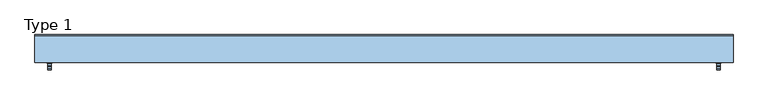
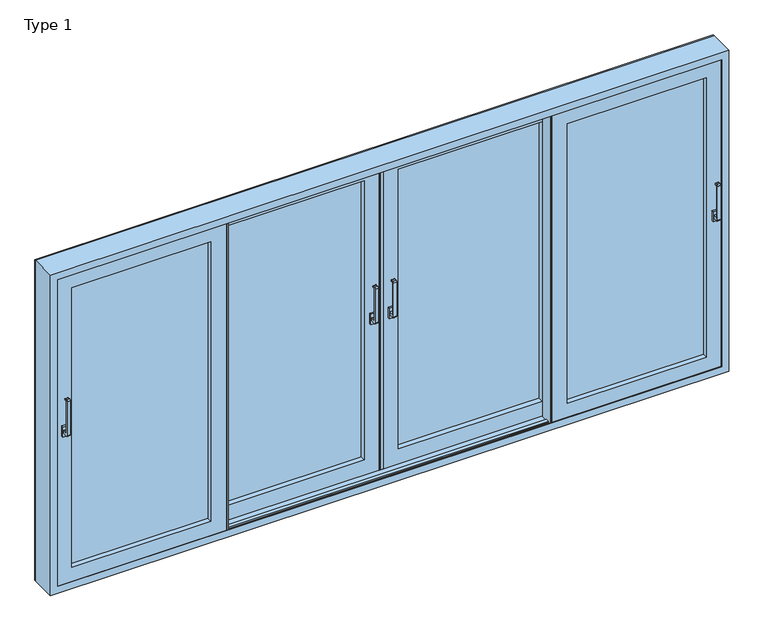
"""IFC4 building model written with IfcOpenShell, lengths in millimetres: window geometry, ETEM_ES70_Quadruple_Lift_Sliding : Type 1."""

from ifc_helpers import new_model, si_unit, point, frame, frame_2d, origin, place, context, project, spatial, polyline, circle_curve, trimmed, segment, composite_curve, outline, extrude, faceted_brep, source, transform, mapped, element, save


def type_1_e41e581d(model_context):
    return source(origin(), model_context, "Body", "SolidModel", [
        extrude(outline(composite_curve([segment(polyline([(-76.4992454, 1090.0), (-108.0729301, 1090.0)]), True, "CONTINUOUS"), segment(trimmed(circle_curve(frame_2d((-108.0729301, 1098.4263152)), 8.4263152), [point((-108.0729301, 1090.0))], [point((-116.4992454, 1098.4263152))], False, "CARTESIAN"), True, "CONTINUOUS"), segment(polyline([(-116.4992454, 1098.4263152), (-116.4992454, 1331.5736848)]), True, "CONTINUOUS"), segment(trimmed(circle_curve(frame_2d((-108.0729301, 1331.5736848)), 8.4263152), [point((-116.4992454, 1331.5736848))], [point((-108.0729301, 1340.0))], False, "CARTESIAN"), True, "CONTINUOUS"), segment(polyline([(-108.0729301, 1340.0), (-96.4992454, 1340.0)]), True, "CONTINUOUS"), segment(trimmed(circle_curve(frame_2d((-96.4992454, 1335.0)), 5.0), [point((-96.4992454, 1340.0))], [point((-96.4992454, 1330.0))], False, "CARTESIAN"), True, "CONTINUOUS"), segment(polyline([(-96.4992454, 1330.0), (-102.9637115, 1330.0)]), True, "CONTINUOUS"), segment(trimmed(circle_curve(frame_2d((-102.9637115, 1326.4644661)), 3.5355339), [point((-102.9637115, 1330.0))], [point((-106.4992454, 1326.4644661))], True, "CARTESIAN"), True, "CONTINUOUS"), segment(polyline([(-106.4992454, 1326.4644661), (-106.4992454, 1113.5355339)]), True, "CONTINUOUS"), segment(trimmed(circle_curve(frame_2d((-102.9637115, 1113.5355339)), 3.5355339), [point((-106.4992454, 1113.5355339))], [point((-102.9637115, 1110.0))], True, "CARTESIAN"), True, "CONTINUOUS"), segment(polyline([(-102.9637115, 1110.0), (-76.4992454, 1110.0), (-76.4992454, 1090.0)]), True, "CONTINUOUS")], self_intersect=False)), frame((2098.5, 0.0, 0.0), z_axis=(1.0, 0.0, 0.0), x_axis=(0.0, 1.0, 0.0)), (0.0, 0.0, 1.0), 20.0),
        extrude(outline(polyline([(2093.5, -76.4992454), (2093.5, -63.4992454), (2123.5, -63.4992454), (2123.5, -76.4992454), (2093.5, -76.4992454)])), frame((0.0, 0.0, 1065.0), z_axis=(0.0, 0.0, 1.0), x_axis=(1.0, 0.0, 0.0)), (0.0, 0.0, 1.0), 70.0),
        extrude(outline(composite_curve([segment(polyline([(-76.4992454, 1090.0), (-108.0729301, 1090.0)]), True, "CONTINUOUS"), segment(trimmed(circle_curve(frame_2d((-108.0729301, 1098.4263152)), 8.4263152), [point((-108.0729301, 1090.0))], [point((-116.4992454, 1098.4263152))], False, "CARTESIAN"), True, "CONTINUOUS"), segment(polyline([(-116.4992454, 1098.4263152), (-116.4992454, 1331.5736848)]), True, "CONTINUOUS"), segment(trimmed(circle_curve(frame_2d((-108.0729301, 1331.5736848)), 8.4263152), [point((-116.4992454, 1331.5736848))], [point((-108.0729301, 1340.0))], False, "CARTESIAN"), True, "CONTINUOUS"), segment(polyline([(-108.0729301, 1340.0), (-96.4992454, 1340.0)]), True, "CONTINUOUS"), segment(trimmed(circle_curve(frame_2d((-96.4992454, 1335.0)), 5.0), [point((-96.4992454, 1340.0))], [point((-96.4992454, 1330.0))], False, "CARTESIAN"), True, "CONTINUOUS"), segment(polyline([(-96.4992454, 1330.0), (-102.9637115, 1330.0)]), True, "CONTINUOUS"), segment(trimmed(circle_curve(frame_2d((-102.9637115, 1326.4644661)), 3.5355339), [point((-102.9637115, 1330.0))], [point((-106.4992454, 1326.4644661))], True, "CARTESIAN"), True, "CONTINUOUS"), segment(polyline([(-106.4992454, 1326.4644661), (-106.4992454, 1113.5355339)]), True, "CONTINUOUS"), segment(trimmed(circle_curve(frame_2d((-102.9637115, 1113.5355339)), 3.5355339), [point((-106.4992454, 1113.5355339))], [point((-102.9637115, 1110.0))], True, "CARTESIAN"), True, "CONTINUOUS"), segment(polyline([(-102.9637115, 1110.0), (-76.4992454, 1110.0), (-76.4992454, 1090.0)]), True, "CONTINUOUS")], self_intersect=False)), frame((-2118.5, 0.0, 0.0), z_axis=(1.0, 0.0, 0.0), x_axis=(0.0, 1.0, 0.0)), (0.0, 0.0, 1.0), 20.0),
        extrude(outline(polyline([(-2123.5, -76.4992454), (-2123.5, -63.4992454), (-2093.5, -63.4992454), (-2093.5, -76.4992454), (-2123.5, -76.4992454)])), frame((0.0, 0.0, 1065.0), z_axis=(0.0, 0.0, 1.0), x_axis=(1.0, 0.0, 0.0)), (0.0, 0.0, 1.0), 70.0),
        extrude(outline(composite_curve([segment(polyline([(13.5, 1090.0), (-18.0736848, 1090.0)]), True, "CONTINUOUS"), segment(trimmed(circle_curve(frame_2d((-18.0736848, 1098.4263152)), 8.4263152), [point((-18.0736848, 1090.0))], [point((-26.5, 1098.4263152))], False, "CARTESIAN"), True, "CONTINUOUS"), segment(polyline([(-26.5, 1098.4263152), (-26.5, 1331.5736848)]), True, "CONTINUOUS"), segment(trimmed(circle_curve(frame_2d((-18.0736848, 1331.5736848)), 8.4263152), [point((-26.5, 1331.5736848))], [point((-18.0736848, 1340.0))], False, "CARTESIAN"), True, "CONTINUOUS"), segment(polyline([(-18.0736848, 1340.0), (-6.5, 1340.0)]), True, "CONTINUOUS"), segment(trimmed(circle_curve(frame_2d((-6.5, 1335.0)), 5.0), [point((-6.5, 1340.0))], [point((-6.5, 1330.0))], False, "CARTESIAN"), True, "CONTINUOUS"), segment(polyline([(-6.5, 1330.0), (-12.9644661, 1330.0)]), True, "CONTINUOUS"), segment(trimmed(circle_curve(frame_2d((-12.9644661, 1326.4644661)), 3.5355339), [point((-12.9644661, 1330.0))], [point((-16.5, 1326.4644661))], True, "CARTESIAN"), True, "CONTINUOUS"), segment(polyline([(-16.5, 1326.4644661), (-16.5, 1113.5355339)]), True, "CONTINUOUS"), segment(trimmed(circle_curve(frame_2d((-12.9644661, 1113.5355339)), 3.5355339), [point((-16.5, 1113.5355339))], [point((-12.9644661, 1110.0))], True, "CARTESIAN"), True, "CONTINUOUS"), segment(polyline([(-12.9644661, 1110.0), (13.5, 1110.0), (13.5, 1090.0)]), True, "CONTINUOUS")], self_intersect=False)), frame((-69.4936823, 0.0, 0.0), z_axis=(1.0, 0.0, 0.0), x_axis=(0.0, 1.0, 0.0)), (0.0, 0.0, 1.0), 20.0),
        extrude(outline(polyline([(-74.4936823, 13.5), (-74.4936823, 26.5), (-44.4936823, 26.5), (-44.4936823, 13.5), (-74.4936823, 13.5)])), frame((0.0, 0.0, 1065.0), z_axis=(0.0, 0.0, 1.0), x_axis=(1.0, 0.0, 0.0)), (0.0, 0.0, 1.0), 70.0),
        extrude(outline(composite_curve([segment(polyline([(13.5, 1090.0), (-18.0736848, 1090.0)]), True, "CONTINUOUS"), segment(trimmed(circle_curve(frame_2d((-18.0736848, 1098.4263152)), 8.4263152), [point((-18.0736848, 1090.0))], [point((-26.5, 1098.4263152))], False, "CARTESIAN"), True, "CONTINUOUS"), segment(polyline([(-26.5, 1098.4263152), (-26.5, 1331.5736848)]), True, "CONTINUOUS"), segment(trimmed(circle_curve(frame_2d((-18.0736848, 1331.5736848)), 8.4263152), [point((-26.5, 1331.5736848))], [point((-18.0736848, 1340.0))], False, "CARTESIAN"), True, "CONTINUOUS"), segment(polyline([(-18.0736848, 1340.0), (-6.5, 1340.0)]), True, "CONTINUOUS"), segment(trimmed(circle_curve(frame_2d((-6.5, 1335.0)), 5.0), [point((-6.5, 1340.0))], [point((-6.5, 1330.0))], False, "CARTESIAN"), True, "CONTINUOUS"), segment(polyline([(-6.5, 1330.0), (-12.9644661, 1330.0)]), True, "CONTINUOUS"), segment(trimmed(circle_curve(frame_2d((-12.9644661, 1326.4644661)), 3.5355339), [point((-12.9644661, 1330.0))], [point((-16.5, 1326.4644661))], True, "CARTESIAN"), True, "CONTINUOUS"), segment(polyline([(-16.5, 1326.4644661), (-16.5, 1113.5355339)]), True, "CONTINUOUS"), segment(trimmed(circle_curve(frame_2d((-12.9644661, 1113.5355339)), 3.5355339), [point((-16.5, 1113.5355339))], [point((-12.9644661, 1110.0))], True, "CARTESIAN"), True, "CONTINUOUS"), segment(polyline([(-12.9644661, 1110.0), (13.5, 1110.0), (13.5, 1090.0)]), True, "CONTINUOUS")], self_intersect=False)), frame((49.4931787, 0.0, 0.0), z_axis=(1.0, 0.0, 0.0), x_axis=(0.0, 1.0, 0.0)), (0.0, 0.0, 1.0), 20.0),
        extrude(outline(polyline([(74.4931787, 13.5), (44.4931787, 13.5), (44.4931787, 26.5), (74.4931787, 26.5), (74.4931787, 13.5)])), frame((0.0, 0.0, 1065.0), z_axis=(0.0, 0.0, 1.0), x_axis=(1.0, 0.0, 0.0)), (0.0, 0.0, 1.0), 70.0),
        faceted_brep([(2200.0, -70.1, 2200.0), (2200.0, -70.1, 0.0), (2200.0, 97.9, 0.0), (2200.0, 97.9, 2200.0), (-2200.0, -70.1, 2200.0), (-2200.0, -70.1, 0.0), (2152.0, -70.1, 48.0), (-2152.0, -70.1, 48.0), (-2152.0, -70.1, 2152.0), (2152.0, -70.1, 2152.0), (-2200.0, 97.9, 0.0), (-2200.0, 97.9, 2200.0), (2183.7, 97.9, 2183.7), (-2183.7, 97.9, 2183.7), (-2183.7, 97.9, 16.3), (2183.7, 97.9, 16.3), (2183.7, 66.0, 2183.7), (2183.7, 66.0, 16.3), (-2183.7, 66.0, 16.3), (-2183.7, 66.0, 2183.7), (2160.0, 66.0, 2160.0), (-2160.0, 66.0, 2160.0), (-2160.0, 66.0, 40.0), (2160.0, 66.0, 40.0), (2160.0, 80.0, 2160.0), (2160.0, 80.0, 40.0), (-2160.0, 80.0, 40.0), (-2160.0, 80.0, 2160.0), (2152.0, 80.0, 2152.0), (-2152.0, 80.0, 2152.0), (-2152.0, 80.0, 48.0), (2152.0, 80.0, 48.0), (2152.0, 57.0, 2152.0), (2152.0, 57.0, 48.0), (-2152.0, 57.0, 48.0), (2183.7, 57.0, 2183.7), (-2183.7, 57.0, 2183.7), (-2183.7, 57.0, 16.3), (2183.7, 57.0, 16.3), (-2152.0, 57.0, 2152.0), (2183.7, -24.0, 2183.7), (2183.7, -24.0, 16.3), (-2183.7, -24.0, 16.3), (-2183.7, -24.0, 2183.7), (2152.0, -24.0, 2152.0), (-2152.0, -24.0, 2152.0), (-2152.0, -24.0, 48.0), (2152.0, -24.0, 48.0), (2152.0, -47.0, 2152.0), (2152.0, -47.0, 48.0), (-2152.0, -47.0, 48.0), (2160.0, -47.0, 2160.0), (-2160.0, -47.0, 2160.0), (-2160.0, -47.0, 40.0), (2160.0, -47.0, 40.0), (-2152.0, -47.0, 2152.0), (2160.0, -33.0, 2160.0), (2160.0, -33.0, 40.0), (-2160.0, -33.0, 40.0), (2183.7, -33.0, 2183.7), (-2183.7, -33.0, 2183.7), (-2183.7, -33.0, 16.3), (2183.7, -33.0, 16.3), (-2160.0, -33.0, 2160.0), (2183.7, -66.3, 2183.7), (2183.7, -66.3, 16.3), (-2183.7, -66.3, 16.3), (-2183.7, -66.3, 2183.7), (2152.0, -66.3, 2152.0), (-2152.0, -66.3, 2152.0), (-2152.0, -66.3, 48.0), (2152.0, -66.3, 48.0)], [[[0, 1, 2, 3]], [[0, 4, 5, 1], [6, 7, 8, 9]], [[2, 1, 5, 10]], [[2, 10, 11, 3], [12, 13, 14, 15]], [[16, 12, 15, 17]], [[17, 15, 14, 18]], [[17, 18, 19, 16], [20, 21, 22, 23]], [[24, 20, 23, 25]], [[25, 23, 22, 26]], [[25, 26, 27, 24], [28, 29, 30, 31]], [[32, 28, 31, 33]], [[33, 31, 30, 34]], [[35, 36, 37, 38], [33, 34, 39, 32]], [[40, 35, 38, 41]], [[41, 38, 37, 42]], [[41, 42, 43, 40], [44, 45, 46, 47]], [[48, 44, 47, 49]], [[49, 47, 46, 50]], [[51, 52, 53, 54], [49, 50, 55, 48]], [[56, 51, 54, 57]], [[57, 54, 53, 58]], [[59, 60, 61, 62], [57, 58, 63, 56]], [[64, 59, 62, 65]], [[65, 62, 61, 66]], [[65, 66, 67, 64], [68, 69, 70, 71]], [[9, 68, 71, 6]], [[6, 71, 70, 7]], [[10, 5, 4, 11]], [[18, 14, 13, 19]], [[26, 22, 21, 27]], [[34, 30, 29, 39]], [[42, 37, 36, 43]], [[50, 46, 45, 55]], [[58, 53, 52, 63]], [[66, 61, 60, 67]], [[7, 70, 69, 8]], [[11, 4, 0, 3]], [[19, 13, 12, 16]], [[27, 21, 20, 24]], [[39, 29, 28, 32]], [[43, 36, 35, 40]], [[55, 45, 44, 48]], [[63, 52, 51, 56]], [[67, 60, 59, 64]], [[8, 69, 68, 9]]]),
        faceted_brep([(1146.5, 38.9, 2161.0), (1146.5, 26.5, 2161.0), (1146.5, 26.5, 39.0), (1146.5, 38.9, 39.0), (7.0252518, 26.5, 2161.0), (7.0252518, 26.5, 39.0), (1043.5, 26.5, 142.0), (110.0252518, 26.5, 142.0), (110.0252518, 26.5, 2058.0), (1043.5, 26.5, 2058.0), (7.0252518, 38.9, 39.0), (7.0252518, 38.9, 2161.0), (1115.4, 38.9, 2129.9), (38.1252518, 38.9, 2129.9), (38.1252518, 38.9, 70.1), (1115.4, 38.9, 70.1), (1115.4, 84.1, 2129.9), (1115.4, 84.1, 70.1), (38.1252518, 84.1, 70.1), (1146.5, 84.1, 2161.0), (7.0252518, 84.1, 2161.0), (7.0252518, 84.1, 39.0), (1146.5, 84.1, 39.0), (38.1252518, 84.1, 2129.9), (1146.5, 96.5, 2161.0), (1146.5, 96.5, 39.0), (7.0252518, 96.5, 39.0), (7.0252518, 96.5, 2161.0), (1043.5, 96.5, 2058.0), (110.0252518, 96.5, 2058.0), (110.0252518, 96.5, 142.0), (1043.5, 96.5, 142.0)], [[[0, 1, 2, 3]], [[1, 4, 5, 2], [6, 7, 8, 9]], [[3, 2, 5, 10]], [[3, 10, 11, 0], [12, 13, 14, 15]], [[16, 12, 15, 17]], [[17, 15, 14, 18]], [[19, 20, 21, 22], [17, 18, 23, 16]], [[24, 19, 22, 25]], [[25, 22, 21, 26]], [[25, 26, 27, 24], [28, 29, 30, 31]], [[9, 28, 31, 6]], [[6, 31, 30, 7]], [[10, 5, 4, 11]], [[18, 14, 13, 23]], [[26, 21, 20, 27]], [[7, 30, 29, 8]], [[11, 4, 1, 0]], [[23, 13, 12, 16]], [[27, 20, 19, 24]], [[8, 29, 28, 9]]]),
        extrude(outline(polyline([(1156.5, 14.7), (1146.5, 14.7), (1146.5, 96.5), (1156.5, 96.5), (1156.5, 14.7)])), frame((0.0, 0.0, 39.0), z_axis=(0.0, 0.0, 1.0), x_axis=(1.0, 0.0, 0.0)), (0.0, 0.0, 1.0), 2122.0),
        extrude(outline(polyline([(1043.5, 18.3007546), (1053.5, 18.3007546), (1053.5, -63.4992454), (1043.5, -63.4992454), (1043.5, 18.3007546)])), frame((0.0, 0.0, 39.0), z_axis=(0.0, 0.0, 1.0), x_axis=(1.0, 0.0, 0.0)), (0.0, 0.0, 1.0), 2122.0),
        extrude(outline(polyline([(109.9252518, 88.5022684), (1043.55, 88.5022684), (1043.55, 82.5022684), (109.9252518, 82.5022684), (109.9252518, 88.5022684)])), frame((0.0, 0.0, 142.0), z_axis=(0.0, 0.0, 1.0), x_axis=(1.0, 0.0, 0.0)), (0.0, 0.0, 1.0), 1916.0),
        extrude(outline(polyline([(1156.5, -1.4992409), (2058.0, -1.4992409), (2058.0, -7.4992409), (1156.5, -7.4992409), (1156.5, -1.4992409)])), frame((0.0, 0.0, 141.9749999), z_axis=(0.0, 0.0, 1.0), x_axis=(1.0, 0.0, 0.0)), (0.0, 0.0, 1.0), 1916.0500002),
        extrude(outline(polyline([(109.9252518, 66.5022684), (1043.55, 66.5022684), (1043.55, 60.5022684), (109.9252518, 60.5022684), (109.9252518, 66.5022684)])), frame((0.0, 0.0, 142.0), z_axis=(0.0, 0.0, 1.0), x_axis=(1.0, 0.0, 0.0)), (0.0, 0.0, 1.0), 1916.0),
        extrude(outline(polyline([(1156.5, -23.4992409), (2058.0, -23.4992409), (2058.0, -29.4992409), (1156.5, -29.4992409), (1156.5, -23.4992409)])), frame((0.0, 0.0, 141.9749999), z_axis=(0.0, 0.0, 1.0), x_axis=(1.0, 0.0, 0.0)), (0.0, 0.0, 1.0), 1916.0500002),
        faceted_brep([(-7.0252518, 38.9, 2161.0), (-7.0252518, 26.5, 2161.0), (-7.0252518, 26.5, 39.0), (-7.0252518, 38.9, 39.0), (-1146.5, 26.5, 2161.0), (-1146.5, 26.5, 39.0), (-110.0252518, 26.5, 142.0), (-1043.5, 26.5, 142.0), (-1043.5, 26.5, 2058.0), (-110.0252518, 26.5, 2058.0), (-1146.5, 38.9, 39.0), (-1146.5, 38.9, 2161.0), (-38.1252518, 38.9, 2129.9), (-1115.4, 38.9, 2129.9), (-1115.4, 38.9, 70.1), (-38.1252518, 38.9, 70.1), (-38.1252518, 84.1, 2129.9), (-38.1252518, 84.1, 70.1), (-1115.4, 84.1, 70.1), (-7.0252518, 84.1, 2161.0), (-1146.5, 84.1, 2161.0), (-1146.5, 84.1, 39.0), (-7.0252518, 84.1, 39.0), (-1115.4, 84.1, 2129.9), (-7.0252518, 96.5, 2161.0), (-7.0252518, 96.5, 39.0), (-1146.5, 96.5, 39.0), (-1146.5, 96.5, 2161.0), (-110.0252518, 96.5, 2058.0), (-1043.5, 96.5, 2058.0), (-1043.5, 96.5, 142.0), (-110.0252518, 96.5, 142.0)], [[[0, 1, 2, 3]], [[1, 4, 5, 2], [6, 7, 8, 9]], [[3, 2, 5, 10]], [[3, 10, 11, 0], [12, 13, 14, 15]], [[16, 12, 15, 17]], [[17, 15, 14, 18]], [[19, 20, 21, 22], [17, 18, 23, 16]], [[24, 19, 22, 25]], [[25, 22, 21, 26]], [[25, 26, 27, 24], [28, 29, 30, 31]], [[9, 28, 31, 6]], [[6, 31, 30, 7]], [[10, 5, 4, 11]], [[18, 14, 13, 23]], [[26, 21, 20, 27]], [[7, 30, 29, 8]], [[11, 4, 1, 0]], [[23, 13, 12, 16]], [[27, 20, 19, 24]], [[8, 29, 28, 9]]]),
        extrude(outline(polyline([(-1043.55, 88.5022684), (-109.9252518, 88.5022684), (-109.9252518, 82.5022684), (-1043.55, 82.5022684), (-1043.55, 88.5022684)])), frame((0.0, 0.0, 142.0), z_axis=(0.0, 0.0, 1.0), x_axis=(1.0, 0.0, 0.0)), (0.0, 0.0, 1.0), 1916.0),
        extrude(outline(polyline([(-1043.55, 66.5022684), (-109.9252518, 66.5022684), (-109.9252518, 60.5022684), (-1043.55, 60.5022684), (-1043.55, 66.5022684)])), frame((0.0, 0.0, 142.0), z_axis=(0.0, 0.0, 1.0), x_axis=(1.0, 0.0, 0.0)), (0.0, 0.0, 1.0), 1916.0),
        faceted_brep([(-1053.5, -51.0992454, 2161.0), (-1053.5, -63.4992454, 2161.0), (-1053.5, -63.4992454, 39.0), (-1053.5, -51.0992454, 39.0), (-2161.0, -63.4992454, 39.0), (-2161.0, -51.0992454, 39.0), (-2161.0, -63.4992454, 2161.0), (-2058.0250001, -63.4992454, 141.9749999), (-2058.0250001, -63.4992454, 2058.0250001), (-1156.4749999, -63.4992454, 2058.0250001), (-1156.4749999, -63.4992454, 141.9749999), (-2161.0, -51.0992454, 2161.0), (-1084.5749999, -51.0992454, 70.0749999), (-1084.5749999, -51.0992454, 2129.9250001), (-2129.9250001, -51.0992454, 2129.9250001), (-2129.9250001, -51.0992454, 70.0749999), (-1084.5749999, -5.8992454, 2129.9250001), (-1084.5749999, -5.8992454, 70.0749999), (-2129.9250001, -5.8992454, 70.0749999), (-2129.9250001, -5.8992454, 2129.9250001), (-1053.5, -5.8992454, 39.0), (-1053.5, -5.8992454, 2161.0), (-2161.0, -5.8992454, 2161.0), (-2161.0, -5.8992454, 39.0), (-1053.5, 6.5007546, 2161.0), (-1053.5, 6.5007546, 39.0), (-2161.0, 6.5007546, 39.0), (-2161.0, 6.5007546, 2161.0), (-1156.4749999, 6.5007546, 141.9749999), (-1156.4749999, 6.5007546, 2058.0250001), (-2058.0250001, 6.5007546, 2058.0250001), (-2058.0250001, 6.5007546, 141.9749999)], [[[0, 1, 2, 3]], [[3, 2, 4, 5]], [[2, 1, 6, 4], [7, 8, 9, 10]], [[5, 4, 6, 11]], [[5, 11, 0, 3], [12, 13, 14, 15]], [[16, 13, 12, 17]], [[17, 12, 15, 18]], [[18, 15, 14, 19]], [[20, 21, 22, 23], [18, 19, 16, 17]], [[24, 21, 20, 25]], [[25, 20, 23, 26]], [[26, 23, 22, 27]], [[26, 27, 24, 25], [28, 29, 30, 31]], [[9, 29, 28, 10]], [[10, 28, 31, 7]], [[7, 31, 30, 8]], [[11, 6, 1, 0]], [[19, 14, 13, 16]], [[27, 22, 21, 24]], [[8, 30, 29, 9]]]),
        extrude(outline(polyline([(-1043.5, 18.3007546), (-1043.5, -63.4992454), (-1053.5, -63.4992454), (-1053.5, 18.3007546), (-1043.5, 18.3007546)])), frame((0.0, 0.0, 39.0), z_axis=(0.0, 0.0, 1.0), x_axis=(1.0, 0.0, 0.0)), (0.0, 0.0, 1.0), 2122.0),
        extrude(outline(polyline([(-1156.45, 14.7), (-1156.45, 96.5), (-1146.55, 96.5), (-1146.55, 14.7), (-1156.45, 14.7)])), frame((0.0, 0.0, 39.0), z_axis=(0.0, 0.0, 1.0), x_axis=(1.0, 0.0, 0.0)), (0.0, 0.0, 1.0), 2122.0),
        extrude(outline(polyline([(-2058.0, -1.4992409), (-1156.5, -1.4992409), (-1156.5, -7.4992409), (-2058.0, -7.4992409), (-2058.0, -1.4992409)])), frame((0.0, 0.0, 141.9749999), z_axis=(0.0, 0.0, 1.0), x_axis=(1.0, 0.0, 0.0)), (0.0, 0.0, 1.0), 1916.0500002),
        extrude(outline(polyline([(-2058.0, -23.4992409), (-1156.5, -23.4992409), (-1156.5, -29.4992409), (-2058.0, -29.4992409), (-2058.0, -23.4992409)])), frame((0.0, 0.0, 141.9749999), z_axis=(0.0, 0.0, 1.0), x_axis=(1.0, 0.0, 0.0)), (0.0, 0.0, 1.0), 1916.0500002),
        extrude(outline(polyline([(7.0252518, 42.9992454), (7.0252518, 26.5), (12.3472419, 26.5), (12.3472419, 24.7022316), (-12.6492101, 24.7022316), (-12.6492101, 26.5), (-7.0252518, 26.5), (-7.0252518, 96.5), (-12.6492101, 96.5), (-12.6492101, 98.2992777), (12.3472419, 98.2992777), (12.3472419, 96.5), (7.0252518, 96.5), (7.0252518, 80.0007546), (16.0497482, 80.0007546), (16.0497482, 42.9992454), (7.0252518, 42.9992454)])), frame((0.0, 0.0, 39.0188293), z_axis=(0.0, 0.0, 1.0), x_axis=(1.0, 0.0, 0.0)), (0.0, 0.0, 1.0), 2121.9623414),
        extrude(outline(polyline([(0.0, -2200.0), (0.0, -2152.0), (2152.0, -2152.0), (2152.0, 2152.0), (0.0, 2152.0), (0.0, 2200.0), (2200.0, 2200.0), (2200.0, -2200.0), (0.0, -2200.0)])), frame((0.0, 97.9, 0.0), z_axis=(0.0, 1.0, 0.0), x_axis=(0.0, 0.0, 1.0)), (0.0, 0.0, 1.0), 7.1),
        faceted_brep([(2161.0, -51.0992454, 2161.0), (2161.0, -63.4992454, 2161.0), (2161.0, -63.4992454, 39.0), (2161.0, -51.0992454, 39.0), (1053.5, -63.4992454, 39.0), (1053.5, -51.0992454, 39.0), (1053.5, -63.4992454, 2161.0), (1156.4749999, -63.4992454, 141.9749999), (1156.4749999, -63.4992454, 2058.0250001), (2058.0250001, -63.4992454, 2058.0250001), (2058.0250001, -63.4992454, 141.9749999), (1053.5, -51.0992454, 2161.0), (2129.9250001, -51.0992454, 70.0749999), (2129.9250001, -51.0992454, 2129.9250001), (1084.5749999, -51.0992454, 2129.9250001), (1084.5749999, -51.0992454, 70.0749999), (2129.9250001, -5.8992454, 2129.9250001), (2129.9250001, -5.8992454, 70.0749999), (1084.5749999, -5.8992454, 70.0749999), (1084.5749999, -5.8992454, 2129.9250001), (2161.0, -5.8992454, 39.0), (2161.0, -5.8992454, 2161.0), (1053.5, -5.8992454, 2161.0), (1053.5, -5.8992454, 39.0), (2161.0, 6.5007546, 2161.0), (2161.0, 6.5007546, 39.0), (1053.5, 6.5007546, 39.0), (1053.5, 6.5007546, 2161.0), (2058.0250001, 6.5007546, 141.9749999), (2058.0250001, 6.5007546, 2058.0250001), (1156.4749999, 6.5007546, 2058.0250001), (1156.4749999, 6.5007546, 141.9749999)], [[[0, 1, 2, 3]], [[3, 2, 4, 5]], [[2, 1, 6, 4], [7, 8, 9, 10]], [[5, 4, 6, 11]], [[5, 11, 0, 3], [12, 13, 14, 15]], [[16, 13, 12, 17]], [[17, 12, 15, 18]], [[18, 15, 14, 19]], [[20, 21, 22, 23], [18, 19, 16, 17]], [[24, 21, 20, 25]], [[25, 20, 23, 26]], [[26, 23, 22, 27]], [[26, 27, 24, 25], [28, 29, 30, 31]], [[9, 29, 28, 10]], [[10, 28, 31, 7]], [[7, 31, 30, 8]], [[11, 6, 1, 0]], [[19, 14, 13, 16]], [[27, 22, 21, 24]], [[8, 30, 29, 9]]]),
    ])


if __name__ == "__main__":
    model = new_model("IFC4")
    model_context = context("Model", 3, world=origin())
    ifc_project = project(units=[si_unit("LENGTHUNIT", "METRE", prefix="MILLI")], contexts=[model_context])
    site = spatial("IfcSite", under=ifc_project)
    building = spatial("IfcBuilding", under=site)
    placement = place(None, origin())
    type_1_shape = type_1_e41e581d(model_context)
    element("IfcWindow", 1, ObjectType="ETEM_ES70_Quadruple_Lift_Sliding : Type 1", at=placement, inside=building, context=model_context, shape_type="MappedRepresentation", body=[
        mapped(type_1_shape, transform((0.0, 0.0, 0.0), x_axis=(1.0, 0.0, 0.0), y_axis=(0.0, 1.0, 0.0), z_axis=(0.0, 0.0, 1.0))),
    ])
    save(model, "model.ifc")
